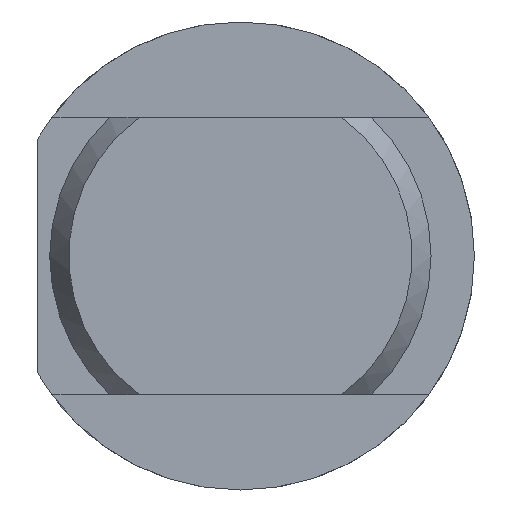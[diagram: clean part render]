
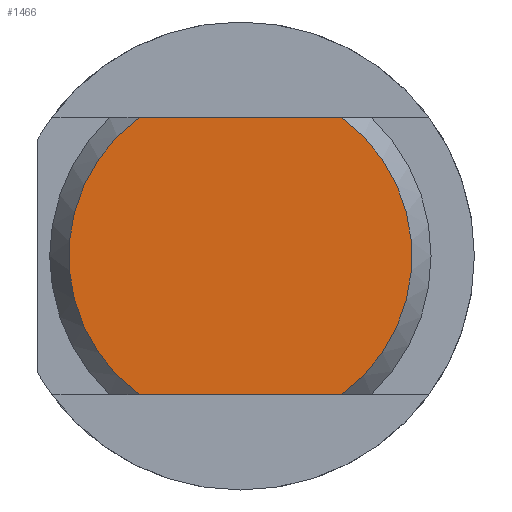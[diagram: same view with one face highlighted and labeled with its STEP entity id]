
A CAD part, left-side view. The second image highlights one B-rep face of the part: STEP entity #1466.
In plain terms, the highlighted planar face has unit normal (-1, 0, 0).
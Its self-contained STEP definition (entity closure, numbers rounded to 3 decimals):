
#257 = CARTESIAN_POINT ( 'NONE',  ( 0., 0., 0. ) ) ;
#259 = PLANE ( 'NONE',  #2822 ) ;
#262 = DIRECTION ( 'NONE',  ( -1., 0., 0. ) ) ;
#263 = DIRECTION ( 'NONE',  ( 0., 0., 1. ) ) ;
#456 = AXIS2_PLACEMENT_3D ( 'NONE', #2618, #2615, #2614 ) ;
#457 = AXIS2_PLACEMENT_3D ( 'NONE', #2598, #2596, #2594 ) ;
#504 = EDGE_CURVE ( 'NONE', #695, #707, #990, .T. ) ;
#506 = EDGE_CURVE ( 'NONE', #692, #707, #994, .T. ) ;
#507 = EDGE_CURVE ( 'NONE', #692, #702, #995, .T. ) ;
#692 = VERTEX_POINT ( 'NONE', #2504 ) ;
#695 = VERTEX_POINT ( 'NONE', #2500 ) ;
#702 = VERTEX_POINT ( 'NONE', #2490 ) ;
#707 = VERTEX_POINT ( 'NONE', #2482 ) ;
#880 = ORIENTED_EDGE ( 'NONE', *, *, #1275, .F. ) ;
#883 = ORIENTED_EDGE ( 'NONE', *, *, #507, .T. ) ;
#896 = ORIENTED_EDGE ( 'NONE', *, *, #504, .T. ) ;
#907 = ORIENTED_EDGE ( 'NONE', *, *, #506, .F. ) ;
#990 = CIRCLE ( 'NONE', #456, 9.9 ) ;
#993 = VECTOR ( 'NONE', #2603, 1000. ) ;
#994 = LINE ( 'NONE', #2607, #993 ) ;
#995 = CIRCLE ( 'NONE', #457, 9.9 ) ;
#1073 = LINE ( 'NONE', #3063, #1074 ) ;
#1074 = VECTOR ( 'NONE', #3064, 1000. ) ;
#1275 = EDGE_CURVE ( 'NONE', #695, #702, #1073, .T. ) ;
#1466 = ADVANCED_FACE ( 'NONE', ( #2209 ), #259, .T. ) ;
#1576 = EDGE_LOOP ( 'NONE', ( #907, #883, #880, #896 ) ) ;
#2209 = FACE_OUTER_BOUND ( 'NONE', #1576, .T. ) ;
#2482 = CARTESIAN_POINT ( 'NONE',  ( 0., -5.832, 8. ) ) ;
#2490 = CARTESIAN_POINT ( 'NONE',  ( 0., 5.832, -8. ) ) ;
#2500 = CARTESIAN_POINT ( 'NONE',  ( 0., -5.832, -8. ) ) ;
#2504 = CARTESIAN_POINT ( 'NONE',  ( 0., 5.832, 8. ) ) ;
#2594 = DIRECTION ( 'NONE',  ( 0., 0., 1. ) ) ;
#2596 = DIRECTION ( 'NONE',  ( -1., 0., 0. ) ) ;
#2598 = CARTESIAN_POINT ( 'NONE',  ( 0., 0., 0. ) ) ;
#2603 = DIRECTION ( 'NONE',  ( 0., -1., 0. ) ) ;
#2607 = CARTESIAN_POINT ( 'NONE',  ( 0., 11.7, 8. ) ) ;
#2614 = DIRECTION ( 'NONE',  ( 0., 0., 1. ) ) ;
#2615 = DIRECTION ( 'NONE',  ( -1., 0., 0. ) ) ;
#2618 = CARTESIAN_POINT ( 'NONE',  ( 0., 0., 0. ) ) ;
#2822 = AXIS2_PLACEMENT_3D ( 'NONE', #257, #262, #263 ) ;
#3063 = CARTESIAN_POINT ( 'NONE',  ( 0., 11.7, -8. ) ) ;
#3064 = DIRECTION ( 'NONE',  ( 0., 1., 0. ) ) ;
